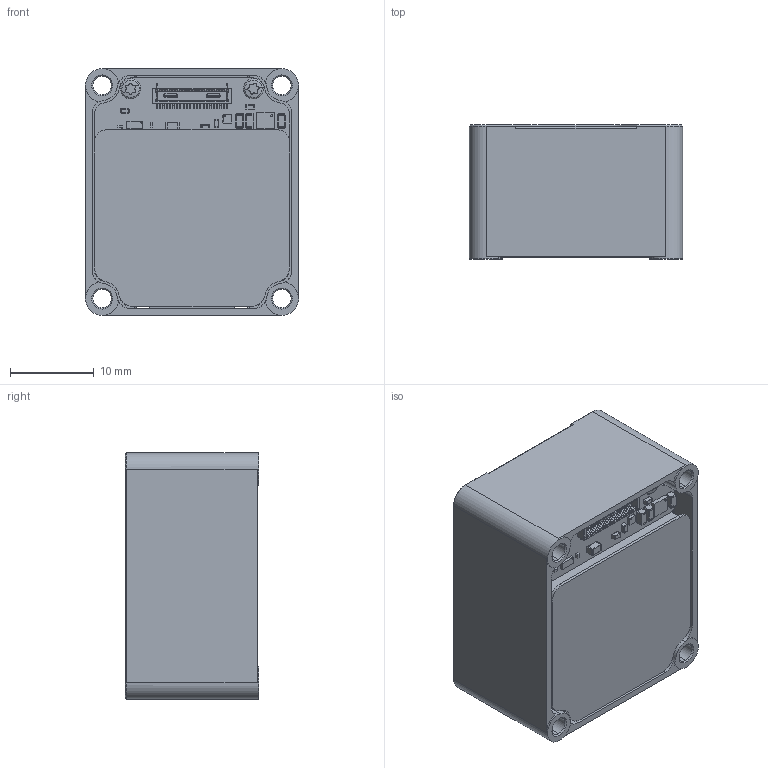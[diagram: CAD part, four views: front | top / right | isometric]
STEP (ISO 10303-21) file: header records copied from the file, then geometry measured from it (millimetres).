
FILE_DESCRIPTION (( 'STEP AP214' ), '1' );
FILE_NAME ('ELLIPSE-N-O-GEN3.STEP', '2020-11-23T09:13:22', ( '' ), ( '' ), 'SwSTEP 2.0', 'SolidWorks 2020', '' );
FILE_SCHEMA (( 'AUTOMOTIVE_DESIGN' ));
Length unit declared in the file: millimetre
Products named in the file (1): ELLIPSE-N-O-GEN3
Bounding box: 25.5 x 16 x 29.5 mm (x, y, z)
Surface area: 5701.9 mm2 (no closed solid volume)
Topology: 0 solids, 64 shells, 908 faces, 3344 edges, 2406 vertices
Faces by surface type: plane 424, cylinder 379, bspline 59, cone 30, sphere 8, torus 8
Entity records: 46342 total; most frequent: CARTESIAN_POINT 8859, DIRECTION 5829, ORIENTED_EDGE 4882, EDGE_CURVE 3331, VERTEX_POINT 2406, LINE 2209, VECTOR 2209, AXIS2_PLACEMENT_3D 1810
